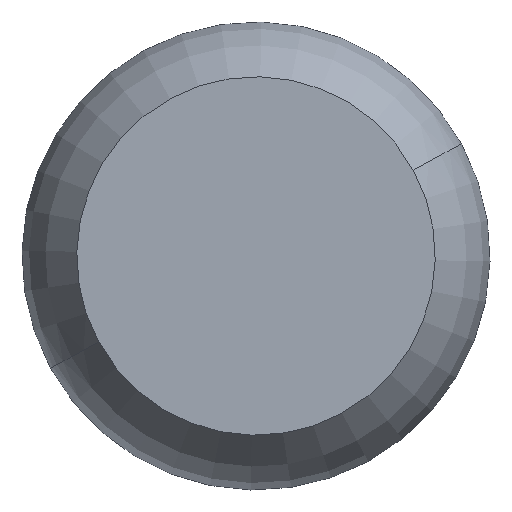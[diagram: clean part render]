
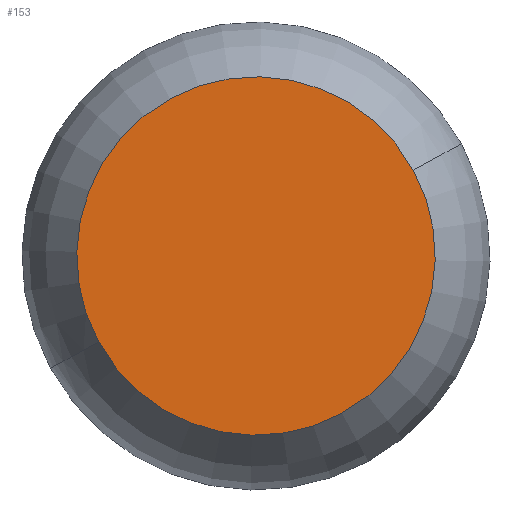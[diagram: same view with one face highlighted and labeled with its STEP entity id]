
A CAD part, front view. The second image highlights one B-rep face of the part: STEP entity #153.
In plain terms, the highlighted planar face has unit normal (0, -1, 0).
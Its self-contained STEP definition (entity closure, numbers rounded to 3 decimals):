
#66=CARTESIAN_POINT('Axis2P3D Location',(0.,0.,0.)) ;
#70=CARTESIAN_POINT('Vertex',(93.901,0.,51.299)) ;
#72=CARTESIAN_POINT('Vertex',(-93.901,0.,-51.299)) ;
#127=CARTESIAN_POINT('Axis2P3D Location',(0.,0.,0.)) ;
#144=CARTESIAN_POINT('Axis2P3D Location',(0.,0.,0.)) ;
#67=DIRECTION('Axis2P3D Direction',(0.,-1.,0.)) ;
#128=DIRECTION('Axis2P3D Direction',(0.,-1.,0.)) ;
#145=DIRECTION('Axis2P3D Direction',(0.,-1.,0.)) ;
#146=DIRECTION('Axis2P3D XDirection',(1.,0.,0.)) ;
#68=AXIS2_PLACEMENT_3D('Circle Axis2P3D',#66,#67,$) ;
#129=AXIS2_PLACEMENT_3D('Circle Axis2P3D',#127,#128,$) ;
#147=AXIS2_PLACEMENT_3D('Plane Axis2P3D',#144,#145,#146) ;
#150=ORIENTED_EDGE('',*,*,#74,.T.) ;
#151=ORIENTED_EDGE('',*,*,#131,.T.) ;
#153=ADVANCED_FACE('PartBody',(#152),#148,.T.) ;
#69=CIRCLE('generated circle',#68,107.) ;
#130=CIRCLE('generated circle',#129,107.) ;
#74=EDGE_CURVE('',#71,#73,#69,.T.) ;
#131=EDGE_CURVE('',#73,#71,#130,.T.) ;
#149=EDGE_LOOP('',(#150,#151)) ;
#152=FACE_OUTER_BOUND('',#149,.T.) ;
#148=PLANE('',#147) ;
#71=VERTEX_POINT('',#70) ;
#73=VERTEX_POINT('',#72) ;
